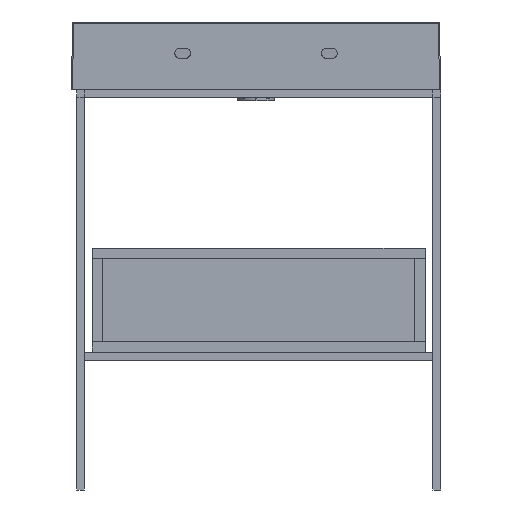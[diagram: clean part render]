
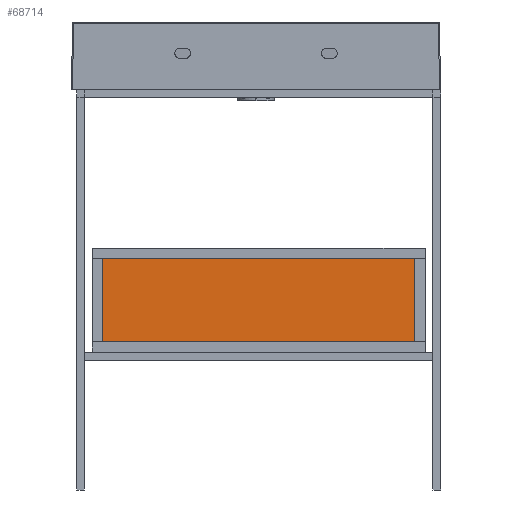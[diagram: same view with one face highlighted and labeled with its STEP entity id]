
A CAD part, front view. The second image highlights one B-rep face of the part: STEP entity #68714.
In plain terms, the highlighted planar face has unit normal (0, 1, 0).
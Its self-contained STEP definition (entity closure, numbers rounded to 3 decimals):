
#68678=AXIS2_PLACEMENT_3D('Plane Axis2P3D',#68675,#68676,#68677) ;
#68675=CARTESIAN_POINT('Axis2P3D Location',(320.,0.,200.)) ;
#68680=CARTESIAN_POINT('Line Origine',(320.,0.,20.)) ;
#68684=CARTESIAN_POINT('Vertex',(620.,0.,20.)) ;
#68686=CARTESIAN_POINT('Vertex',(20.,0.,20.)) ;
#68689=CARTESIAN_POINT('Line Origine',(20.,0.,100.)) ;
#68693=CARTESIAN_POINT('Vertex',(20.,0.,180.)) ;
#68696=CARTESIAN_POINT('Line Origine',(320.,0.,180.)) ;
#68700=CARTESIAN_POINT('Vertex',(620.,0.,180.)) ;
#68703=CARTESIAN_POINT('Line Origine',(620.,0.,100.)) ;
#68676=DIRECTION('Axis2P3D Direction',(-0.,1.,0.)) ;
#68677=DIRECTION('Axis2P3D XDirection',(1.,0.,0.)) ;
#68681=DIRECTION('Vector Direction',(-1.,0.,0.)) ;
#68690=DIRECTION('Vector Direction',(0.,0.,1.)) ;
#68697=DIRECTION('Vector Direction',(1.,0.,0.)) ;
#68704=DIRECTION('Vector Direction',(0.,0.,-1.)) ;
#68682=VECTOR('Line Direction',#68681,1.) ;
#68691=VECTOR('Line Direction',#68690,1.) ;
#68698=VECTOR('Line Direction',#68697,1.) ;
#68705=VECTOR('Line Direction',#68704,1.) ;
#68709=ORIENTED_EDGE('',*,*,#68688,.T.) ;
#68710=ORIENTED_EDGE('',*,*,#68695,.T.) ;
#68711=ORIENTED_EDGE('',*,*,#68702,.T.) ;
#68712=ORIENTED_EDGE('',*,*,#68707,.T.) ;
#68714=ADVANCED_FACE('PartBody',(#68713),#68679,.T.) ;
#68688=EDGE_CURVE('',#68685,#68687,#68683,.T.) ;
#68695=EDGE_CURVE('',#68687,#68694,#68692,.T.) ;
#68702=EDGE_CURVE('',#68694,#68701,#68699,.T.) ;
#68707=EDGE_CURVE('',#68701,#68685,#68706,.T.) ;
#68708=EDGE_LOOP('',(#68709,#68710,#68711,#68712)) ;
#68713=FACE_OUTER_BOUND('',#68708,.T.) ;
#68683=LINE('Line',#68680,#68682) ;
#68692=LINE('Line',#68689,#68691) ;
#68699=LINE('Line',#68696,#68698) ;
#68706=LINE('Line',#68703,#68705) ;
#68679=PLANE('Plane',#68678) ;
#68685=VERTEX_POINT('',#68684) ;
#68687=VERTEX_POINT('',#68686) ;
#68694=VERTEX_POINT('',#68693) ;
#68701=VERTEX_POINT('',#68700) ;
